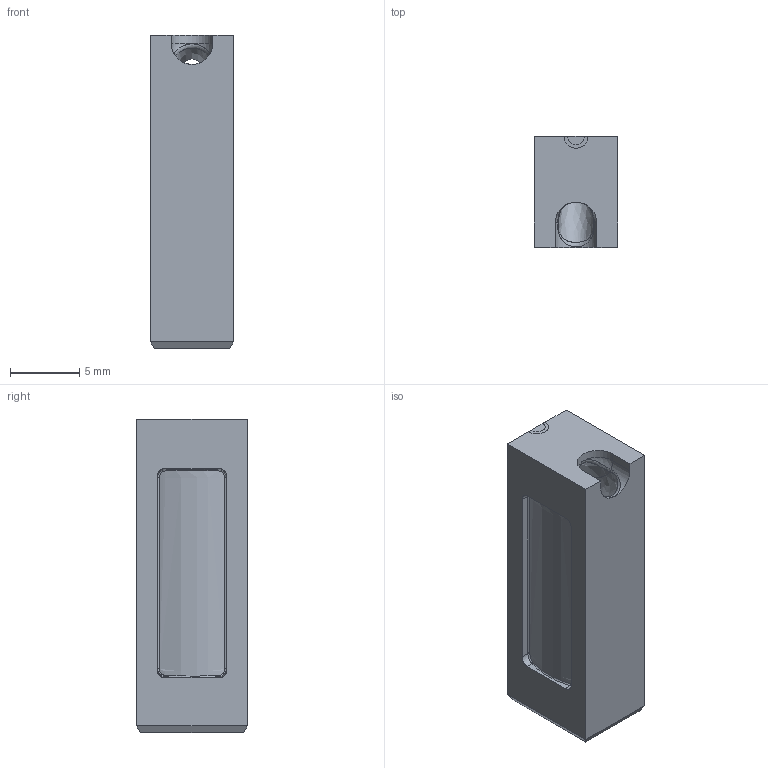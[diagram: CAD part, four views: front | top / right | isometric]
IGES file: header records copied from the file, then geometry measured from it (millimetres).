
Start section: START RECORD GO HERE.
Global section: file name: tgs8-08-s1.igs; native system: DASSAULT SYSTEMES CATIA V5 R20 - www.3ds.com; preprocessor: CATIA Version 5 Release 20 ; author: Utente; organization: NB04-ASUS; date: 20200418.083618; units: millimetre
Bounding box: 6 x 8 x 22.6 mm (x, y, z)
Surface area: 1147.1 mm2 (no closed solid volume)
Topology: 0 solids, 0 shells, 76 faces, 427 edges, 425 vertices
Faces by surface type: revolution 36, plane 22, bspline 18
